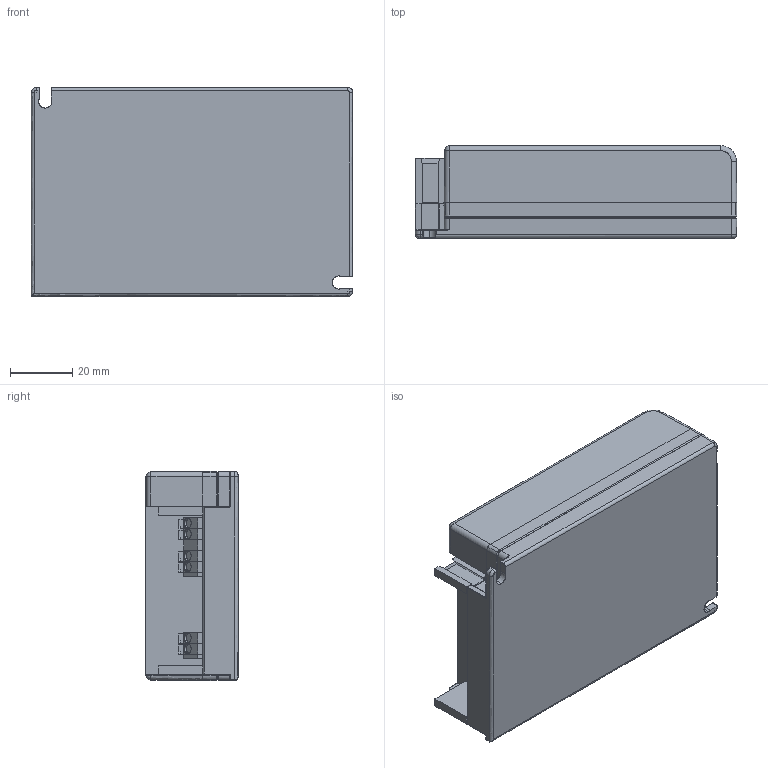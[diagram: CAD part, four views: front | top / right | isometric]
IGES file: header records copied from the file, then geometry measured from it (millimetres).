
Start section: SolidWorks IGES file using analytic representation for surfaces
Global section: file name: D:\ECTR_TEMP\OLQ-batchEngine\queue\temp\4186357swm000.igs; native system: SolidWorks 2017; preprocessor: SolidWorks 2017; author: SYSTEM; date: 200127.122946; units: millimetre
Bounding box: 103 x 29.5 x 67 mm (x, y, z)
Surface area: 26240.3 mm2 (no closed solid volume)
Topology: 0 solids, 0 shells, 612 faces, 3991 edges, 3975 vertices
Faces by surface type: bspline 462, revolution 150
